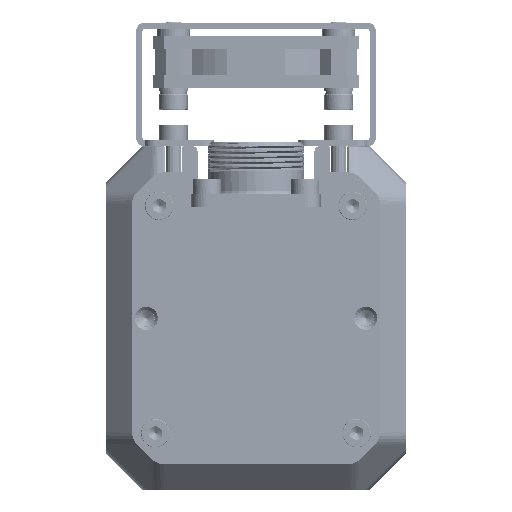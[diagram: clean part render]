
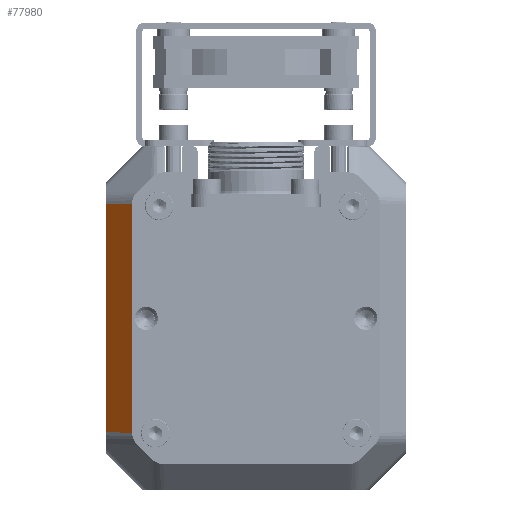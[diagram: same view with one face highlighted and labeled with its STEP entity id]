
A CAD part, front view. The second image highlights one B-rep face of the part: STEP entity #77980.
In plain terms, the highlighted planar face has unit normal (-0.707, -0.707, 0) as drawn and (0.707, 0, 0.707) by its records, which use the part's own axes.
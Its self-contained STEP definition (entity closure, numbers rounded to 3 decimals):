
#71796=DIRECTION('',(0.,1.,0.));
#71797=VECTOR('',#71796,44.094);
#71798=CARTESIAN_POINT('',(29.,-55.297,-5.));
#71799=LINE('',#71798,#71797);
#72645=CARTESIAN_POINT('',(29.,-55.297,-5.));
#72655=DIRECTION('',(-0.707,-0.02,0.707));
#72656=VECTOR('',#72655,7.072);
#72657=CARTESIAN_POINT('',(29.,-55.297,-5.));
#72658=LINE('',#72657,#72656);
#72662=DIRECTION('',(0.,1.,0.));
#72663=VECTOR('',#72662,44.371);
#72664=CARTESIAN_POINT('',(24.,-55.435,0.));
#72665=LINE('',#72664,#72663);
#72669=DIRECTION('',(0.707,-0.02,-0.707));
#72670=VECTOR('',#72669,7.072);
#72671=CARTESIAN_POINT('',(24.,-11.065,0.));
#72672=LINE('',#72671,#72670);
#72676=CARTESIAN_POINT('',(24.,-11.065,0.));
#74283=VERTEX_POINT('',#72676);
#74284=CARTESIAN_POINT('',(24.,-55.435,0.));
#74285=VERTEX_POINT('',#74284);
#74950=VERTEX_POINT('',#72645);
#74951=CARTESIAN_POINT('',(29.,-11.203,-5.));
#74952=VERTEX_POINT('',#74951);
#77968=CARTESIAN_POINT('',(26.5,-33.25,-2.5));
#77969=DIRECTION('',(0.707,0.,0.707));
#77970=DIRECTION('',(0.707,0.,-0.707));
#77971=AXIS2_PLACEMENT_3D('',#77968,#77969,#77970);
#77972=PLANE('',#77971);
#77973=ORIENTED_EDGE('',*,*,#77150,.F.);
#77974=ORIENTED_EDGE('',*,*,#77961,.T.);
#77975=ORIENTED_EDGE('',*,*,#75226,.T.);
#77977=ORIENTED_EDGE('',*,*,#77976,.T.);
#77978=EDGE_LOOP('',(#77973,#77974,#77975,#77977));
#77979=FACE_OUTER_BOUND('',#77978,.F.);
#75226=EDGE_CURVE('',#74285,#74283,#72665,.T.);
#77150=EDGE_CURVE('',#74950,#74952,#71799,.T.);
#77961=EDGE_CURVE('',#74950,#74285,#72658,.T.);
#77976=EDGE_CURVE('',#74283,#74952,#72672,.T.);
#77980=ADVANCED_FACE('',(#77979),#77972,.T.);
